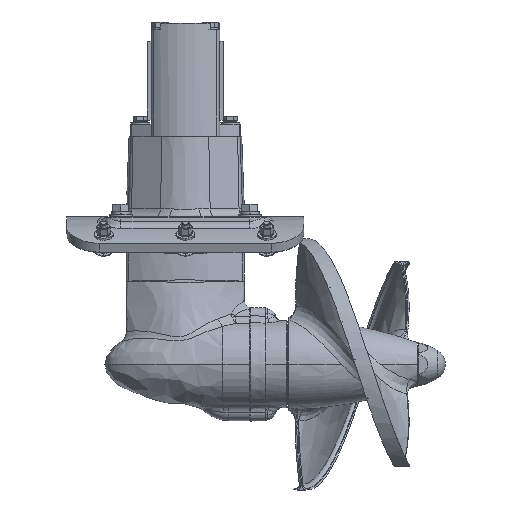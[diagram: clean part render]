
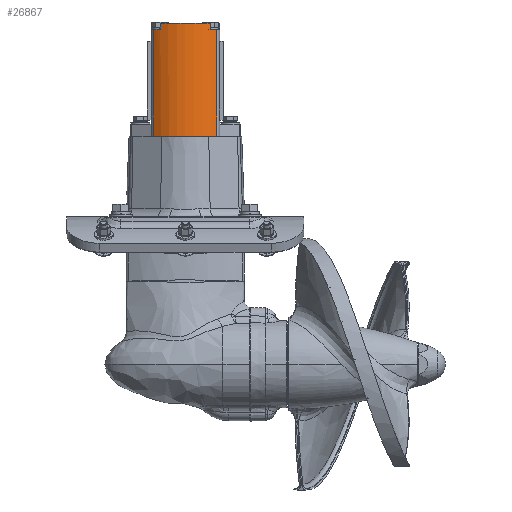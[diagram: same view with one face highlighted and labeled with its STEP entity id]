
A CAD part, top view. The second image highlights one B-rep face of the part: STEP entity #26867.
In plain terms, the highlighted cylindrical face has radius 63.093 mm (diameter 126.186 mm), a partial arc.
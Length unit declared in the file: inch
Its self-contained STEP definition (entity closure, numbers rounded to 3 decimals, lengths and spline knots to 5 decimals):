
#256 = ORIENTED_EDGE ( 'NONE', *, *, #36750, .F. ) ;
#823 = AXIS2_PLACEMENT_3D ( 'NONE', #39810, #3588, #19736 ) ;
#2377 = VECTOR ( 'NONE', #12153, 39.37008 ) ;
#2956 = DIRECTION ( 'NONE',  ( 0., 1., 0. ) ) ;
#3588 = DIRECTION ( 'NONE',  ( 0., -1., 0. ) ) ;
#5248 = CIRCLE ( 'NONE', #34818, 2.48398 ) ;
#6003 = LINE ( 'NONE', #34284, #10251 ) ;
#6550 = ORIENTED_EDGE ( 'NONE', *, *, #28035, .T. ) ;
#6825 = VECTOR ( 'NONE', #44627, 39.37008 ) ;
#7561 = FACE_OUTER_BOUND ( 'NONE', #25185, .T. ) ;
#10251 = VECTOR ( 'NONE', #50376, 39.37008 ) ;
#10738 = ORIENTED_EDGE ( 'NONE', *, *, #51884, .T. ) ;
#12153 = DIRECTION ( 'NONE',  ( 0., -1., 0. ) ) ;
#12174 = CARTESIAN_POINT ( 'NONE',  ( -7.78175, 15.609, 0.14602 ) ) ;
#12386 = LINE ( 'NONE', #28529, #6825 ) ;
#14042 = CARTESIAN_POINT ( 'NONE',  ( -6.61852, 15.875, 2.3408 ) ) ;
#14101 = CARTESIAN_POINT ( 'NONE',  ( -8.94498, 15.609, 2.3408 ) ) ;
#16225 = CARTESIAN_POINT ( 'NONE',  ( -7.78175, 15.609, 0.14602 ) ) ;
#18113 = LINE ( 'NONE', #34222, #41374 ) ;
#18411 = CARTESIAN_POINT ( 'NONE',  ( -6.31328, 10.625, 2.14945 ) ) ;
#19097 = DIRECTION ( 'NONE',  ( 0., 0., 1. ) ) ;
#19540 = CARTESIAN_POINT ( 'NONE',  ( -7.78175, 10.625, 0.14602 ) ) ;
#19736 = DIRECTION ( 'NONE',  ( 0., 0., -1. ) ) ;
#21109 = VERTEX_POINT ( 'NONE', #26599 ) ;
#21667 = VERTEX_POINT ( 'NONE', #14042 ) ;
#23695 = CYLINDRICAL_SURFACE ( 'NONE', #823, 2.48398 ) ;
#25185 = EDGE_LOOP ( 'NONE', ( #256, #26922, #40784, #33494, #6550, #47902, #45606, #10738 ) ) ;
#26081 = AXIS2_PLACEMENT_3D ( 'NONE', #39183, #2956, #19097 ) ;
#26599 = CARTESIAN_POINT ( 'NONE',  ( -9.25022, 10.625, 2.14945 ) ) ;
#26867 = ADVANCED_FACE ( 'Defeatured_0961', ( #7561 ), #23695, .T. ) ;
#26922 = ORIENTED_EDGE ( 'NONE', *, *, #29232, .T. ) ;
#27083 = EDGE_CURVE ( 'Defeatured_0933+Defeatured_0961+Defeatured_0976+Defeatured_0956', #42523, #49516, #18113, .T. ) ;
#28035 = EDGE_CURVE ( 'Defeatured_0961+Defeatured_0956+Defeatured_0932+Defeatured_0933', #21109, #49516, #34684, .T. ) ;
#28315 = DIRECTION ( 'NONE',  ( 0., 1., 0. ) ) ;
#28529 = CARTESIAN_POINT ( 'NONE',  ( -6.61852, 15.742, 2.3408 ) ) ;
#29227 = AXIS2_PLACEMENT_3D ( 'NONE', #16225, #32355, #48437 ) ;
#29232 = EDGE_CURVE ( 'Defeatured_0961+Defeatured_0979+Defeatured_0963+Defeatured_0978', #45046, #33770, #6003, .T. ) ;
#30233 = VERTEX_POINT ( 'NONE', #52280 ) ;
#31971 = EDGE_CURVE ( 'Defeatured_0978+Defeatured_0961+Defeatured_0932+Defeatured_0979', #45464, #33770, #52015, .T. ) ;
#32267 = LINE ( 'NONE', #48350, #2377 ) ;
#32355 = DIRECTION ( 'NONE',  ( 0., 1., 0. ) ) ;
#32476 = CARTESIAN_POINT ( 'NONE',  ( -8.94498, 15.875, 2.3408 ) ) ;
#32681 = CARTESIAN_POINT ( 'NONE',  ( -9.25022, 15.609, 2.14945 ) ) ;
#33494 = ORIENTED_EDGE ( 'NONE', *, *, #47097, .T. ) ;
#33770 = VERTEX_POINT ( 'NONE', #14101 ) ;
#34222 = CARTESIAN_POINT ( 'NONE',  ( -6.31328, 15.875, 2.14945 ) ) ;
#34284 = CARTESIAN_POINT ( 'NONE',  ( -8.94498, 15.742, 2.3408 ) ) ;
#34684 = CIRCLE ( 'NONE', #41405, 2.48398 ) ;
#34818 = AXIS2_PLACEMENT_3D ( 'NONE', #12174, #28315, #44410 ) ;
#35650 = DIRECTION ( 'NONE',  ( 0., 1., 0. ) ) ;
#36750 = EDGE_CURVE ( 'Defeatured_0963+Defeatured_0961+Defeatured_0979+Defeatured_0977', #45046, #21667, #48831, .T. ) ;
#39179 = EDGE_CURVE ( 'Defeatured_0976+Defeatured_0961+Defeatured_0977+Defeatured_0933', #30233, #42523, #5248, .T. ) ;
#39183 = CARTESIAN_POINT ( 'NONE',  ( -7.78175, 15.875, 0.14602 ) ) ;
#39810 = CARTESIAN_POINT ( 'NONE',  ( -7.78175, 15.875, 0.14602 ) ) ;
#40784 = ORIENTED_EDGE ( 'NONE', *, *, #31971, .F. ) ;
#41374 = VECTOR ( 'NONE', #50319, 39.37008 ) ;
#41405 = AXIS2_PLACEMENT_3D ( 'NONE', #19540, #35650, #51758 ) ;
#42523 = VERTEX_POINT ( 'NONE', #48142 ) ;
#44410 = DIRECTION ( 'NONE',  ( 0., 0., 1. ) ) ;
#44627 = DIRECTION ( 'NONE',  ( 0., 1., 0. ) ) ;
#45046 = VERTEX_POINT ( 'NONE', #32476 ) ;
#45464 = VERTEX_POINT ( 'NONE', #32681 ) ;
#45606 = ORIENTED_EDGE ( 'NONE', *, *, #39179, .F. ) ;
#47097 = EDGE_CURVE ( 'Defeatured_0961+Defeatured_0932+Defeatured_0978+Defeatured_0956', #45464, #21109, #32267, .T. ) ;
#47902 = ORIENTED_EDGE ( 'NONE', *, *, #27083, .F. ) ;
#48142 = CARTESIAN_POINT ( 'NONE',  ( -6.31328, 15.609, 2.14945 ) ) ;
#48350 = CARTESIAN_POINT ( 'NONE',  ( -9.25022, 15.875, 2.14945 ) ) ;
#48437 = DIRECTION ( 'NONE',  ( 0., 0., 1. ) ) ;
#48831 = CIRCLE ( 'NONE', #26081, 2.48398 ) ;
#49516 = VERTEX_POINT ( 'NONE', #18411 ) ;
#50319 = DIRECTION ( 'NONE',  ( 0., -1., 0. ) ) ;
#50376 = DIRECTION ( 'NONE',  ( 0., -1., 0. ) ) ;
#51758 = DIRECTION ( 'NONE',  ( 0., 0., 1. ) ) ;
#51884 = EDGE_CURVE ( 'Defeatured_0961+Defeatured_0977+Defeatured_0976+Defeatured_0963', #30233, #21667, #12386, .T. ) ;
#52015 = CIRCLE ( 'NONE', #29227, 2.48398 ) ;
#52280 = CARTESIAN_POINT ( 'NONE',  ( -6.61852, 15.609, 2.3408 ) ) ;
